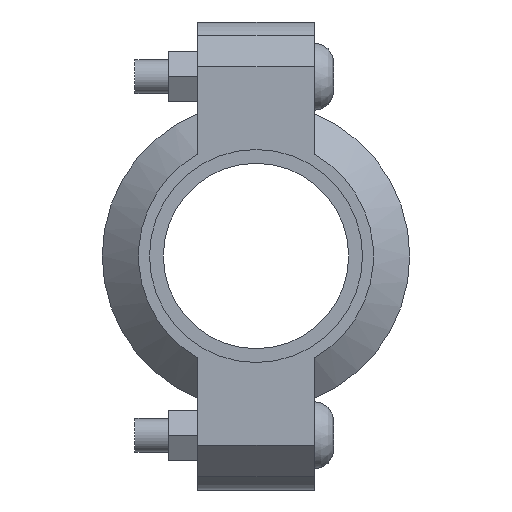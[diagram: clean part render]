
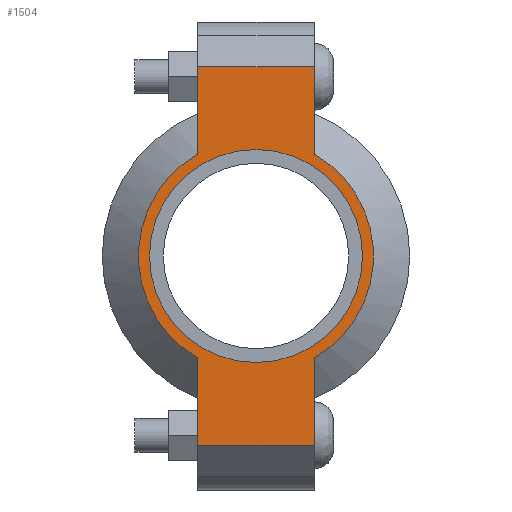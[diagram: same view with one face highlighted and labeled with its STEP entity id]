
A CAD part, left-side view. The second image highlights one B-rep face of the part: STEP entity #1504.
In plain terms, the highlighted planar face has unit normal (-1, 0, 0) as drawn and (0, 0, 1) by its records, which use the part's own axes.
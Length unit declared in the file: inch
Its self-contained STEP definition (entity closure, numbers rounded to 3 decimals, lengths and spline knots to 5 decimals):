
#184=LINE('',#2591,#275);
#192=LINE('',#2627,#283);
#199=LINE('',#2648,#290);
#208=LINE('',#2680,#299);
#209=LINE('',#2684,#300);
#210=LINE('',#2686,#301);
#275=VECTOR('',#2089,0.3937);
#283=VECTOR('',#2105,0.3937);
#290=VECTOR('',#2124,0.3937);
#299=VECTOR('',#2149,0.3937);
#300=VECTOR('',#2154,0.3937);
#301=VECTOR('',#2155,0.3937);
#353=FACE_BOUND('',#513,.T.);
#417=FACE_OUTER_BOUND('',#512,.T.);
#512=EDGE_LOOP('',(#1239,#1240,#1241,#1242,#1243,#1244,#1245,#1246));
#513=EDGE_LOOP('',(#1247));
#610=CIRCLE('',#1747,1.31);
#611=CIRCLE('',#1748,1.31);
#612=CIRCLE('',#1749,1.1875);
#715=VERTEX_POINT('',#2588);
#716=VERTEX_POINT('',#2590);
#727=VERTEX_POINT('',#2622);
#728=VERTEX_POINT('',#2626);
#735=VERTEX_POINT('',#2645);
#736=VERTEX_POINT('',#2647);
#746=VERTEX_POINT('',#2683);
#747=VERTEX_POINT('',#2685);
#748=VERTEX_POINT('',#2688);
#879=EDGE_CURVE('',#716,#715,#184,.T.);
#893=EDGE_CURVE('',#728,#727,#192,.T.);
#903=EDGE_CURVE('',#736,#735,#199,.T.);
#918=EDGE_CURVE('',#728,#715,#208,.T.);
#919=EDGE_CURVE('',#727,#736,#610,.T.);
#920=EDGE_CURVE('',#746,#735,#209,.T.);
#921=EDGE_CURVE('',#746,#747,#210,.T.);
#922=EDGE_CURVE('',#747,#716,#611,.T.);
#923=EDGE_CURVE('',#748,#748,#612,.T.);
#1239=ORIENTED_EDGE('',*,*,#918,.F.);
#1240=ORIENTED_EDGE('',*,*,#893,.T.);
#1241=ORIENTED_EDGE('',*,*,#919,.T.);
#1242=ORIENTED_EDGE('',*,*,#903,.T.);
#1243=ORIENTED_EDGE('',*,*,#920,.F.);
#1244=ORIENTED_EDGE('',*,*,#921,.T.);
#1245=ORIENTED_EDGE('',*,*,#922,.T.);
#1246=ORIENTED_EDGE('',*,*,#879,.T.);
#1247=ORIENTED_EDGE('',*,*,#923,.T.);
#1358=PLANE('',#1746);
#1504=ADVANCED_FACE('',(#417,#353),#1358,.T.);
#1746=AXIS2_PLACEMENT_3D('',#2681,#2150,#2151);
#1747=AXIS2_PLACEMENT_3D('',#2682,#2152,#2153);
#1748=AXIS2_PLACEMENT_3D('',#2687,#2156,#2157);
#1749=AXIS2_PLACEMENT_3D('',#2689,#2158,#2159);
#2089=DIRECTION('',(-1.,0.,0.));
#2105=DIRECTION('',(1.,0.,0.));
#2124=DIRECTION('',(1.,0.,0.));
#2149=DIRECTION('',(0.,1.,0.));
#2150=DIRECTION('center_axis',(0.,0.,1.));
#2151=DIRECTION('ref_axis',(1.,0.,0.));
#2152=DIRECTION('center_axis',(0.,0.,1.));
#2153=DIRECTION('ref_axis',(-1.,0.,0.));
#2154=DIRECTION('',(0.,-1.,0.));
#2155=DIRECTION('',(-1.,0.,0.));
#2156=DIRECTION('center_axis',(0.,0.,1.));
#2157=DIRECTION('ref_axis',(-1.,0.,0.));
#2158=DIRECTION('center_axis',(0.,0.,-1.));
#2159=DIRECTION('ref_axis',(-1.,0.,0.));
#2588=CARTESIAN_POINT('',(-2.11,0.65,0.94));
#2590=CARTESIAN_POINT('',(-1.13737,0.65,0.94));
#2591=CARTESIAN_POINT('',(-2.61,0.65,0.94));
#2622=CARTESIAN_POINT('',(-1.13737,-0.65,0.94));
#2626=CARTESIAN_POINT('',(-2.11,-0.65,0.94));
#2627=CARTESIAN_POINT('',(2.61,-0.65,0.94));
#2645=CARTESIAN_POINT('',(2.11,-0.65,0.94));
#2647=CARTESIAN_POINT('',(1.13737,-0.65,0.94));
#2648=CARTESIAN_POINT('',(2.61,-0.65,0.94));
#2680=CARTESIAN_POINT('',(-2.11,0.325,0.94));
#2681=CARTESIAN_POINT('Origin',(0.,0.,0.94));
#2682=CARTESIAN_POINT('Origin',(0.,0.,0.94));
#2683=CARTESIAN_POINT('',(2.11,0.65,0.94));
#2684=CARTESIAN_POINT('',(2.11,-0.325,0.94));
#2685=CARTESIAN_POINT('',(1.13737,0.65,0.94));
#2686=CARTESIAN_POINT('',(-2.61,0.65,0.94));
#2687=CARTESIAN_POINT('Origin',(0.,0.,0.94));
#2688=CARTESIAN_POINT('',(1.1875,0.,0.94));
#2689=CARTESIAN_POINT('Origin',(0.,0.,0.94));
